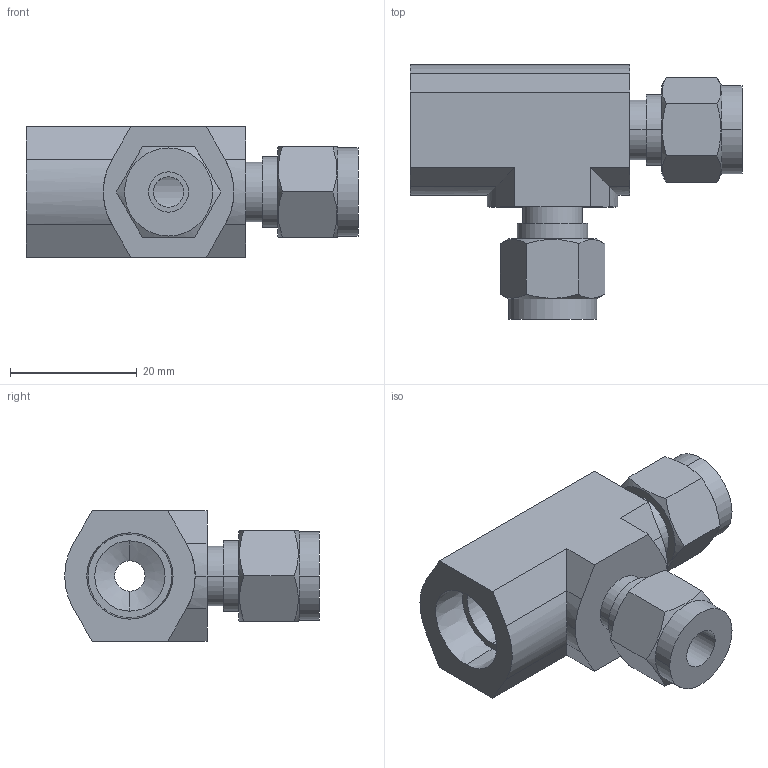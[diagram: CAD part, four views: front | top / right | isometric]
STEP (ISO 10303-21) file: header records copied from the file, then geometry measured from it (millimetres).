
FILE_DESCRIPTION (( 'STEP AP203' ), '1' );
FILE_NAME ('DTF 04-04 SS.STEP', '2009-09-08T09:44:31', ( ' ' ), ( '' ), 'SwSTEP 2.0', 'SolidWorks 2008', '' );
FILE_SCHEMA (( 'CONFIG_CONTROL_DESIGN' ));
Length unit declared in the file: millimetre
Products named in the file (1): DTF 04-04 SS
Bounding box: 52.4 x 40.2 x 20.6 mm (x, y, z)
Volume: 14502.6 mm3; surface area: 7082.9 mm2
Topology: 1 solids, 1 shells, 76 faces, 185 edges, 120 vertices
Faces by surface type: plane 36, cylinder 28, cone 12
Entity records: 2557 total; most frequent: CARTESIAN_POINT 703, ORIENTED_EDGE 370, DIRECTION 361, EDGE_CURVE 185, AXIS2_PLACEMENT_3D 136, VERTEX_POINT 120, EDGE_LOOP 89, VECTOR 89
